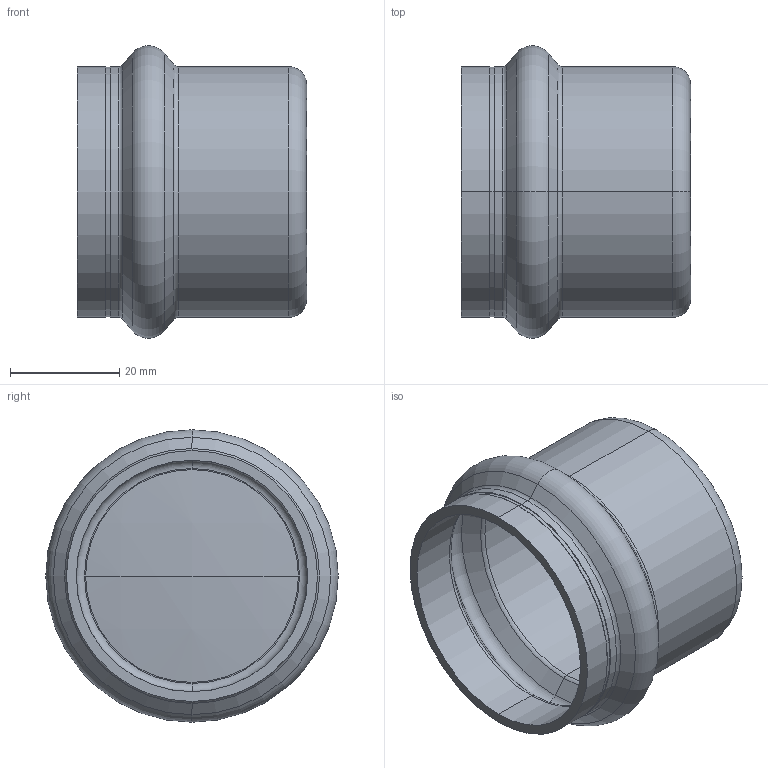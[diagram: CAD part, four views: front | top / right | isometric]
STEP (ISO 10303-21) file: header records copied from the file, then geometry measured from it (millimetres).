
FILE_DESCRIPTION (( 'STEP AP203' ), '1' );
FILE_NAME ('SP5301 42.STEP', '2017-04-24T09:28:43', ( '' ), ( '' ), 'SwSTEP 2.0', 'SolidWorks 2016', '' );
FILE_SCHEMA (( 'CONFIG_CONTROL_DESIGN' ));
Length unit declared in the file: millimetre
Products named in the file (1): SP5301 42
Bounding box: 42 x 53.6 x 53.6 mm (x, y, z)
Volume: 13876.9 mm3; surface area: 15699.5 mm2
Topology: 1 solids, 1 shells, 50 faces, 102 edges, 58 vertices
Faces by surface type: torus 20, cylinder 14, cone 8, sphere 4, plane 4
Entity records: 1403 total; most frequent: DIRECTION 284, CARTESIAN_POINT 211, ORIENTED_EDGE 204, AXIS2_PLACEMENT_3D 131, EDGE_CURVE 102, CIRCLE 80, VERTEX_POINT 58, EDGE_LOOP 54
